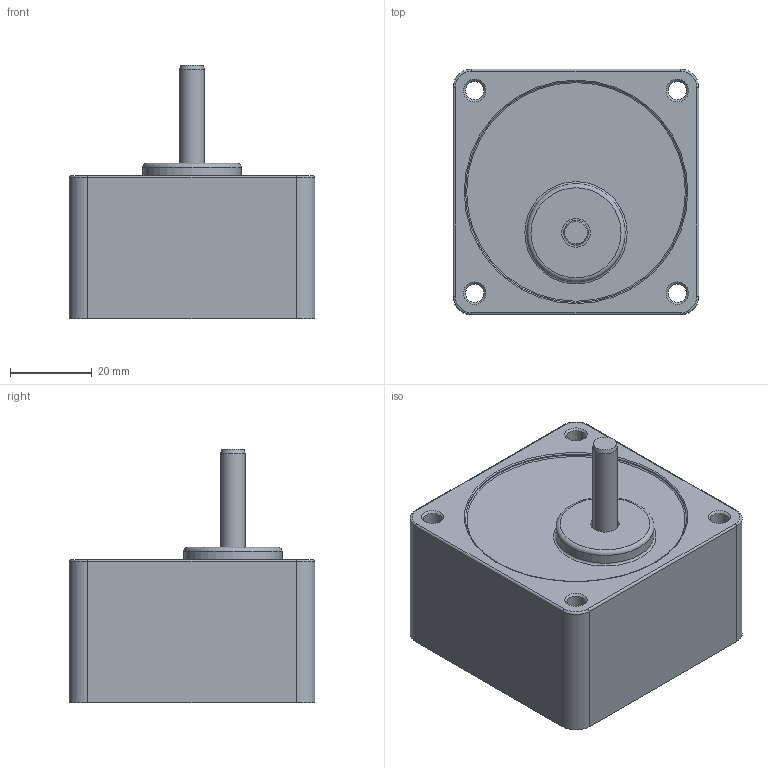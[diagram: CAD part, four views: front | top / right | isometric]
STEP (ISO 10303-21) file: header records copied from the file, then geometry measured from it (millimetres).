
FILE_DESCRIPTION((''),'2;1');
FILE_NAME('\\Spgrnd02\고객배포용도면\3D\01 Standard AC Motor\01 INDUCTION MOTOR\S6I03+S6DT\S6ST20~250.stp','2015-03-24T14:26:56',('smkim'),(''),'Autodesk Inventor 2012','Autodesk Inventor 2012','');
FILE_SCHEMA(('AUTOMOTIVE_DESIGN { 1 0 10303 214 1 1 1 1 }'));
Length unit declared in the file: millimetre
Products named in the file (1): S6ST20~250
Bounding box: 60 x 60 x 62 mm (x, y, z)
Volume: 112526 mm3; surface area: 19056.2 mm2
Topology: 1 solids, 1 shells, 43 faces, 88 edges, 53 vertices
Faces by surface type: cylinder 18, plane 12, torus 8, cone 5
Full cylindrical faces by diameter (mm): 4.5 x4, 6 x2, 7 x1, 24 x1, 53.997 x1, 54 x1
Entity records: 1089 total; most frequent: DIRECTION 206, CARTESIAN_POINT 166, ORIENTED_EDGE 138, AXIS2_PLACEMENT_3D 93, EDGE_LOOP 76, EDGE_CURVE 69, VERTEX_POINT 53, CIRCLE 49
